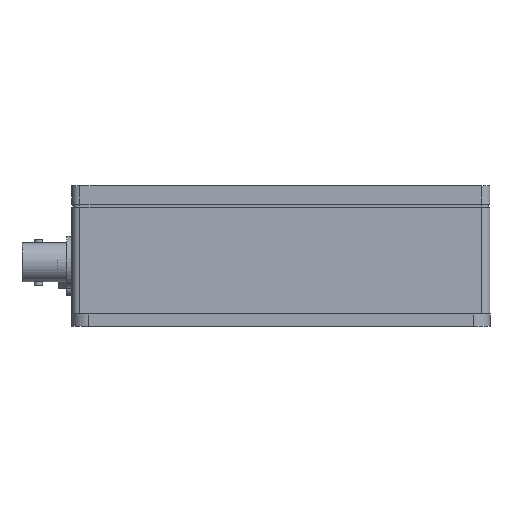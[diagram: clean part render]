
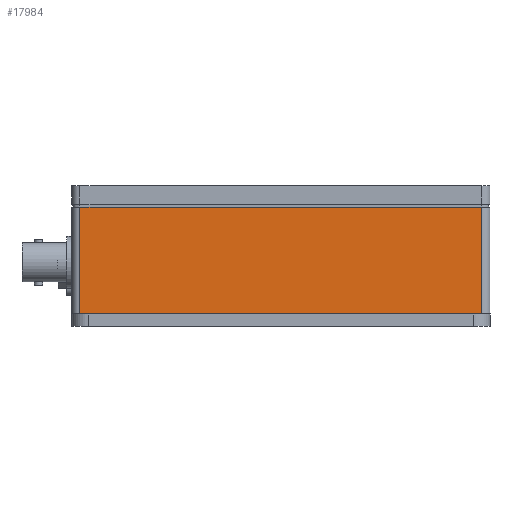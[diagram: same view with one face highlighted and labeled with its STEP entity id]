
A CAD part, left-side view. The second image highlights one B-rep face of the part: STEP entity #17984.
In plain terms, the highlighted planar face has unit normal (-1, 0, 0).
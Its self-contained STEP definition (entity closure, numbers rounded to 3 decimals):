
#1897=PLANE('',#19383);
#2841=FACE_OUTER_BOUND('',#3985,.T.);
#3985=EDGE_LOOP('',(#16199,#16200,#16201,#16202));
#5772=LINE('',#29319,#7551);
#5783=LINE('',#29359,#7562);
#5784=LINE('',#29362,#7563);
#5785=LINE('',#29363,#7564);
#7551=VECTOR('',#23602,10.);
#7562=VECTOR('',#23653,10.);
#7563=VECTOR('',#23656,10.);
#7564=VECTOR('',#23657,10.);
#9538=VERTEX_POINT('',#29316);
#9539=VERTEX_POINT('',#29318);
#9548=VERTEX_POINT('',#29357);
#9549=VERTEX_POINT('',#29361);
#11791=EDGE_CURVE('',#9539,#9538,#5772,.T.);
#11815=EDGE_CURVE('',#9539,#9548,#5783,.T.);
#11816=EDGE_CURVE('',#9549,#9548,#5784,.T.);
#11817=EDGE_CURVE('',#9549,#9538,#5785,.T.);
#16199=ORIENTED_EDGE('',*,*,#11816,.T.);
#16200=ORIENTED_EDGE('',*,*,#11815,.F.);
#16201=ORIENTED_EDGE('',*,*,#11791,.T.);
#16202=ORIENTED_EDGE('',*,*,#11817,.F.);
#17984=ADVANCED_FACE('',(#2841),#1897,.T.);
#19383=AXIS2_PLACEMENT_3D('',#29360,#23654,#23655);
#23602=DIRECTION('',(0.,-1.,0.));
#23653=DIRECTION('',(0.,0.,1.));
#23654=DIRECTION('center_axis',(-1.,0.,0.));
#23655=DIRECTION('ref_axis',(0.,-1.,0.));
#23656=DIRECTION('',(0.,1.,0.));
#23657=DIRECTION('',(0.,0.,-1.));
#29316=CARTESIAN_POINT('',(-60.5,-48.5,3.));
#29318=CARTESIAN_POINT('',(-60.5,48.5,3.));
#29319=CARTESIAN_POINT('',(-60.5,25.25,3.));
#29357=CARTESIAN_POINT('',(-60.5,48.5,28.8));
#29359=CARTESIAN_POINT('',(-60.5,48.5,0.));
#29360=CARTESIAN_POINT('Origin',(-60.5,50.5,0.));
#29361=CARTESIAN_POINT('',(-60.5,-48.5,28.8));
#29362=CARTESIAN_POINT('',(-60.5,25.25,28.8));
#29363=CARTESIAN_POINT('',(-60.5,-48.5,0.));
